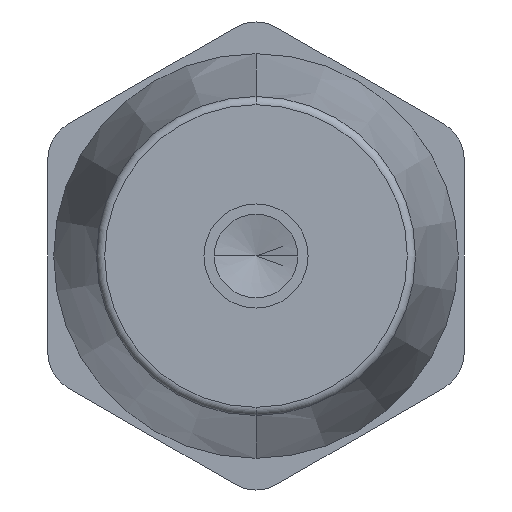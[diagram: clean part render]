
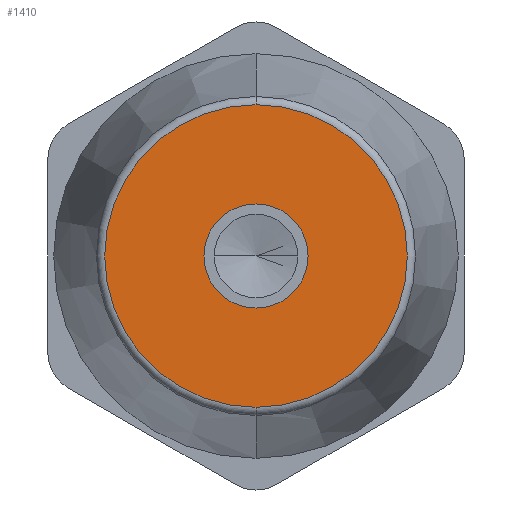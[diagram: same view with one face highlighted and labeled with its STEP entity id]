
A CAD part, front view. The second image highlights one B-rep face of the part: STEP entity #1410.
In plain terms, the highlighted planar face has unit normal (0, -1, 0).
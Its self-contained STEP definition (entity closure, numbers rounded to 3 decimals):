
#144 = AXIS2_PLACEMENT_3D ( 'NONE', #297, #2185, #1512 ) ;
#168 = ORIENTED_EDGE ( 'NONE', *, *, #911, .T. ) ;
#297 = CARTESIAN_POINT ( 'NONE',  ( 0., 0., 0. ) ) ;
#464 = AXIS2_PLACEMENT_3D ( 'NONE', #1931, #2173, #2696 ) ;
#510 = CIRCLE ( 'NONE', #464, 6.25 ) ;
#617 = AXIS2_PLACEMENT_3D ( 'NONE', #892, #661, #2372 ) ;
#631 = DIRECTION ( 'NONE',  ( 0., -1., 0. ) ) ;
#645 = VERTEX_POINT ( 'NONE', #1567 ) ;
#661 = DIRECTION ( 'NONE',  ( 0., 1., 0. ) ) ;
#860 = CARTESIAN_POINT ( 'NONE',  ( 0., 0., 0. ) ) ;
#887 = CARTESIAN_POINT ( 'NONE',  ( 0., 0., 18.161 ) ) ;
#892 = CARTESIAN_POINT ( 'NONE',  ( 25., 0., -14.434 ) ) ;
#903 = FACE_BOUND ( 'NONE', #1615, .T. ) ;
#911 = EDGE_CURVE ( 'NONE', #2755, #645, #2021, .T. ) ;
#1102 = DIRECTION ( 'NONE',  ( 0., 0., 1. ) ) ;
#1161 = ORIENTED_EDGE ( 'NONE', *, *, #1843, .T. ) ;
#1184 = CIRCLE ( 'NONE', #1568, 18.161 ) ;
#1375 = FACE_OUTER_BOUND ( 'NONE', #1721, .T. ) ;
#1410 = ADVANCED_FACE ( 'NONE', ( #903, #1375 ), #1579, .F. ) ;
#1464 = DIRECTION ( 'NONE',  ( 0., -1., 0. ) ) ;
#1511 = VERTEX_POINT ( 'NONE', #2187 ) ;
#1512 = DIRECTION ( 'NONE',  ( -1., 0., 0. ) ) ;
#1567 = CARTESIAN_POINT ( 'NONE',  ( 6.25, 0., 0. ) ) ;
#1568 = AXIS2_PLACEMENT_3D ( 'NONE', #860, #631, #1102 ) ;
#1579 = PLANE ( 'NONE',  #617 ) ;
#1605 = VERTEX_POINT ( 'NONE', #887 ) ;
#1615 = EDGE_LOOP ( 'NONE', ( #168, #3081 ) ) ;
#1721 = EDGE_LOOP ( 'NONE', ( #1161, #2296 ) ) ;
#1843 = EDGE_CURVE ( 'NONE', #1605, #1511, #2853, .T. ) ;
#1931 = CARTESIAN_POINT ( 'NONE',  ( 0., 0., 0. ) ) ;
#2021 = CIRCLE ( 'NONE', #144, 6.25 ) ;
#2173 = DIRECTION ( 'NONE',  ( 0., 1., 0. ) ) ;
#2182 = CARTESIAN_POINT ( 'NONE',  ( 0., 0., 0. ) ) ;
#2185 = DIRECTION ( 'NONE',  ( 0., 1., 0. ) ) ;
#2187 = CARTESIAN_POINT ( 'NONE',  ( 0., 0., -18.161 ) ) ;
#2212 = DIRECTION ( 'NONE',  ( 0., 0., 1. ) ) ;
#2296 = ORIENTED_EDGE ( 'NONE', *, *, #2795, .T. ) ;
#2301 = EDGE_CURVE ( 'NONE', #645, #2755, #510, .T. ) ;
#2372 = DIRECTION ( 'NONE',  ( 0., 0., 1. ) ) ;
#2696 = DIRECTION ( 'NONE',  ( -1., 0., 0. ) ) ;
#2755 = VERTEX_POINT ( 'NONE', #3001 ) ;
#2795 = EDGE_CURVE ( 'NONE', #1511, #1605, #1184, .T. ) ;
#2853 = CIRCLE ( 'NONE', #3010, 18.161 ) ;
#3001 = CARTESIAN_POINT ( 'NONE',  ( -6.25, 0., 0. ) ) ;
#3010 = AXIS2_PLACEMENT_3D ( 'NONE', #2182, #1464, #2212 ) ;
#3081 = ORIENTED_EDGE ( 'NONE', *, *, #2301, .T. ) ;
